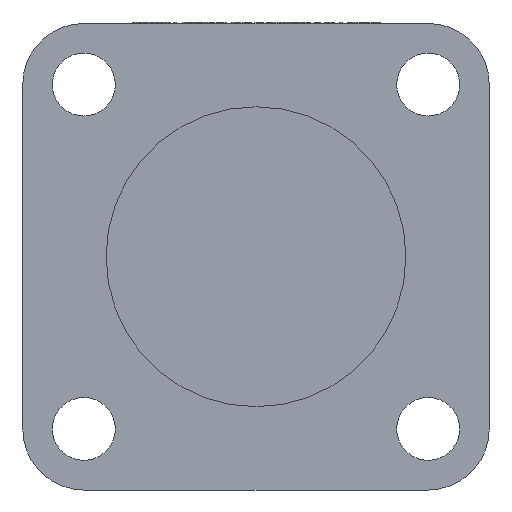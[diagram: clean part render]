
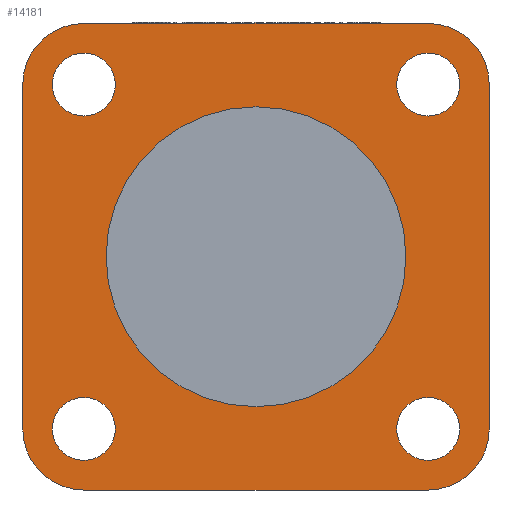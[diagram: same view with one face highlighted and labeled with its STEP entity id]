
A CAD part, left-side view. The second image highlights one B-rep face of the part: STEP entity #14181.
In plain terms, the highlighted planar face has unit normal (-1, 0, 0).
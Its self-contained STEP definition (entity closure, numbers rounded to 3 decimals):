
#12617=CARTESIAN_POINT('Line Origine',(-11.,0.,31.5)) ;
#12621=CARTESIAN_POINT('Vertex',(-11.,23.25,31.5)) ;
#12623=CARTESIAN_POINT('Vertex',(-11.,-23.25,31.5)) ;
#13372=CARTESIAN_POINT('Vertex',(-11.,-19.,23.25)) ;
#13375=CARTESIAN_POINT('Axis2P3D Location',(-11.,-23.25,23.25)) ;
#13379=CARTESIAN_POINT('Vertex',(-11.,-27.5,23.25)) ;
#13394=CARTESIAN_POINT('Axis2P3D Location',(-11.,-23.25,23.25)) ;
#13415=CARTESIAN_POINT('Vertex',(-11.,-19.,-23.25)) ;
#13418=CARTESIAN_POINT('Axis2P3D Location',(-11.,-23.25,-23.25)) ;
#13422=CARTESIAN_POINT('Vertex',(-11.,-27.5,-23.25)) ;
#13437=CARTESIAN_POINT('Axis2P3D Location',(-11.,-23.25,-23.25)) ;
#13458=CARTESIAN_POINT('Vertex',(-11.,19.,-23.25)) ;
#13461=CARTESIAN_POINT('Axis2P3D Location',(-11.,23.25,-23.25)) ;
#13465=CARTESIAN_POINT('Vertex',(-11.,27.5,-23.25)) ;
#13480=CARTESIAN_POINT('Axis2P3D Location',(-11.,23.25,-23.25)) ;
#13501=CARTESIAN_POINT('Vertex',(-11.,19.,23.25)) ;
#13504=CARTESIAN_POINT('Axis2P3D Location',(-11.,23.25,23.25)) ;
#13508=CARTESIAN_POINT('Vertex',(-11.,27.5,23.25)) ;
#13523=CARTESIAN_POINT('Axis2P3D Location',(-11.,23.25,23.25)) ;
#13732=CARTESIAN_POINT('Axis2P3D Location',(-11.,23.25,23.25)) ;
#13736=CARTESIAN_POINT('Vertex',(-11.,31.5,23.25)) ;
#13756=CARTESIAN_POINT('Axis2P3D Location',(-11.,-23.25,23.25)) ;
#13760=CARTESIAN_POINT('Vertex',(-11.,-31.5,23.25)) ;
#13787=CARTESIAN_POINT('Line Origine',(-11.,-31.5,0.)) ;
#13791=CARTESIAN_POINT('Vertex',(-11.,-31.5,-23.25)) ;
#13845=CARTESIAN_POINT('Axis2P3D Location',(-11.,-23.25,-23.25)) ;
#13849=CARTESIAN_POINT('Vertex',(-11.,-23.25,-31.5)) ;
#13869=CARTESIAN_POINT('Line Origine',(-11.,0.,-31.5)) ;
#13873=CARTESIAN_POINT('Vertex',(-11.,23.25,-31.5)) ;
#13897=CARTESIAN_POINT('Vertex',(-11.,-20.25,0.)) ;
#13902=CARTESIAN_POINT('Axis2P3D Location',(-11.,0.,0.)) ;
#13906=CARTESIAN_POINT('Vertex',(-11.,20.25,0.)) ;
#13928=CARTESIAN_POINT('Axis2P3D Location',(-11.,0.,0.)) ;
#14122=CARTESIAN_POINT('Axis2P3D Location',(-11.,23.25,-23.25)) ;
#14126=CARTESIAN_POINT('Vertex',(-11.,31.5,-23.25)) ;
#14141=CARTESIAN_POINT('Axis2P3D Location',(-11.,0.,0.)) ;
#14146=CARTESIAN_POINT('Line Origine',(-11.,31.5,0.)) ;
#12618=DIRECTION('Vector Direction',(0.,1.,0.)) ;
#13376=DIRECTION('Axis2P3D Direction',(1.,0.,0.)) ;
#13395=DIRECTION('Axis2P3D Direction',(1.,0.,0.)) ;
#13419=DIRECTION('Axis2P3D Direction',(1.,0.,0.)) ;
#13438=DIRECTION('Axis2P3D Direction',(1.,0.,0.)) ;
#13462=DIRECTION('Axis2P3D Direction',(1.,0.,0.)) ;
#13481=DIRECTION('Axis2P3D Direction',(1.,0.,0.)) ;
#13505=DIRECTION('Axis2P3D Direction',(1.,0.,0.)) ;
#13524=DIRECTION('Axis2P3D Direction',(1.,0.,0.)) ;
#13733=DIRECTION('Axis2P3D Direction',(1.,0.,0.)) ;
#13757=DIRECTION('Axis2P3D Direction',(1.,0.,0.)) ;
#13788=DIRECTION('Vector Direction',(0.,0.,-1.)) ;
#13846=DIRECTION('Axis2P3D Direction',(1.,0.,0.)) ;
#13870=DIRECTION('Vector Direction',(0.,-1.,0.)) ;
#13903=DIRECTION('Axis2P3D Direction',(-1.,-0.,0.)) ;
#13929=DIRECTION('Axis2P3D Direction',(-1.,-0.,0.)) ;
#14123=DIRECTION('Axis2P3D Direction',(1.,0.,0.)) ;
#14142=DIRECTION('Axis2P3D Direction',(1.,0.,0.)) ;
#14143=DIRECTION('Axis2P3D XDirection',(0.,1.,0.)) ;
#14147=DIRECTION('Vector Direction',(0.,0.,1.)) ;
#13377=AXIS2_PLACEMENT_3D('Circle Axis2P3D',#13375,#13376,$) ;
#13396=AXIS2_PLACEMENT_3D('Circle Axis2P3D',#13394,#13395,$) ;
#13420=AXIS2_PLACEMENT_3D('Circle Axis2P3D',#13418,#13419,$) ;
#13439=AXIS2_PLACEMENT_3D('Circle Axis2P3D',#13437,#13438,$) ;
#13463=AXIS2_PLACEMENT_3D('Circle Axis2P3D',#13461,#13462,$) ;
#13482=AXIS2_PLACEMENT_3D('Circle Axis2P3D',#13480,#13481,$) ;
#13506=AXIS2_PLACEMENT_3D('Circle Axis2P3D',#13504,#13505,$) ;
#13525=AXIS2_PLACEMENT_3D('Circle Axis2P3D',#13523,#13524,$) ;
#13734=AXIS2_PLACEMENT_3D('Circle Axis2P3D',#13732,#13733,$) ;
#13758=AXIS2_PLACEMENT_3D('Circle Axis2P3D',#13756,#13757,$) ;
#13847=AXIS2_PLACEMENT_3D('Circle Axis2P3D',#13845,#13846,$) ;
#13904=AXIS2_PLACEMENT_3D('Circle Axis2P3D',#13902,#13903,$) ;
#13930=AXIS2_PLACEMENT_3D('Circle Axis2P3D',#13928,#13929,$) ;
#14124=AXIS2_PLACEMENT_3D('Circle Axis2P3D',#14122,#14123,$) ;
#14144=AXIS2_PLACEMENT_3D('Plane Axis2P3D',#14141,#14142,#14143) ;
#14152=ORIENTED_EDGE('',*,*,#12625,.F.) ;
#14153=ORIENTED_EDGE('',*,*,#13738,.F.) ;
#14154=ORIENTED_EDGE('',*,*,#14150,.F.) ;
#14155=ORIENTED_EDGE('',*,*,#14128,.F.) ;
#14156=ORIENTED_EDGE('',*,*,#13875,.F.) ;
#14157=ORIENTED_EDGE('',*,*,#13851,.F.) ;
#14158=ORIENTED_EDGE('',*,*,#13793,.F.) ;
#14159=ORIENTED_EDGE('',*,*,#13762,.F.) ;
#14162=ORIENTED_EDGE('',*,*,#13932,.F.) ;
#14163=ORIENTED_EDGE('',*,*,#13908,.F.) ;
#14166=ORIENTED_EDGE('',*,*,#13398,.T.) ;
#14167=ORIENTED_EDGE('',*,*,#13381,.T.) ;
#14170=ORIENTED_EDGE('',*,*,#13441,.T.) ;
#14171=ORIENTED_EDGE('',*,*,#13424,.T.) ;
#14174=ORIENTED_EDGE('',*,*,#13484,.T.) ;
#14175=ORIENTED_EDGE('',*,*,#13467,.T.) ;
#14178=ORIENTED_EDGE('',*,*,#13527,.T.) ;
#14179=ORIENTED_EDGE('',*,*,#13510,.T.) ;
#14164=FACE_BOUND('',#14161,.T.) ;
#14168=FACE_BOUND('',#14165,.T.) ;
#14172=FACE_BOUND('',#14169,.T.) ;
#14176=FACE_BOUND('',#14173,.T.) ;
#14180=FACE_BOUND('',#14177,.T.) ;
#12619=VECTOR('Line Direction',#12618,1.) ;
#13789=VECTOR('Line Direction',#13788,1.) ;
#13871=VECTOR('Line Direction',#13870,1.) ;
#14148=VECTOR('Line Direction',#14147,1.) ;
#14181=ADVANCED_FACE('PartBody',(#14160,#14164,#14168,#14172,#14176,#14180),#14145,.F.) ;
#13378=CIRCLE('generated circle',#13377,4.25) ;
#13397=CIRCLE('generated circle',#13396,4.25) ;
#13421=CIRCLE('generated circle',#13420,4.25) ;
#13440=CIRCLE('generated circle',#13439,4.25) ;
#13464=CIRCLE('generated circle',#13463,4.25) ;
#13483=CIRCLE('generated circle',#13482,4.25) ;
#13507=CIRCLE('generated circle',#13506,4.25) ;
#13526=CIRCLE('generated circle',#13525,4.25) ;
#13735=CIRCLE('generated circle',#13734,8.25) ;
#13759=CIRCLE('generated circle',#13758,8.25) ;
#13848=CIRCLE('generated circle',#13847,8.25) ;
#13905=CIRCLE('generated circle',#13904,20.25) ;
#13931=CIRCLE('generated circle',#13930,20.25) ;
#14125=CIRCLE('generated circle',#14124,8.25) ;
#12625=EDGE_CURVE('',#12622,#12624,#12620,.F.) ;
#13381=EDGE_CURVE('',#13380,#13373,#13378,.T.) ;
#13398=EDGE_CURVE('',#13373,#13380,#13397,.T.) ;
#13424=EDGE_CURVE('',#13423,#13416,#13421,.T.) ;
#13441=EDGE_CURVE('',#13416,#13423,#13440,.T.) ;
#13467=EDGE_CURVE('',#13466,#13459,#13464,.T.) ;
#13484=EDGE_CURVE('',#13459,#13466,#13483,.T.) ;
#13510=EDGE_CURVE('',#13509,#13502,#13507,.T.) ;
#13527=EDGE_CURVE('',#13502,#13509,#13526,.T.) ;
#13738=EDGE_CURVE('',#13737,#12622,#13735,.T.) ;
#13762=EDGE_CURVE('',#12624,#13761,#13759,.T.) ;
#13793=EDGE_CURVE('',#13761,#13792,#13790,.T.) ;
#13851=EDGE_CURVE('',#13792,#13850,#13848,.T.) ;
#13875=EDGE_CURVE('',#13850,#13874,#13872,.F.) ;
#13908=EDGE_CURVE('',#13898,#13907,#13905,.T.) ;
#13932=EDGE_CURVE('',#13907,#13898,#13931,.T.) ;
#14128=EDGE_CURVE('',#13874,#14127,#14125,.T.) ;
#14150=EDGE_CURVE('',#14127,#13737,#14149,.T.) ;
#14151=EDGE_LOOP('',(#14152,#14153,#14154,#14155,#14156,#14157,#14158,#14159)) ;
#14161=EDGE_LOOP('',(#14162,#14163)) ;
#14165=EDGE_LOOP('',(#14166,#14167)) ;
#14169=EDGE_LOOP('',(#14170,#14171)) ;
#14173=EDGE_LOOP('',(#14174,#14175)) ;
#14177=EDGE_LOOP('',(#14178,#14179)) ;
#14160=FACE_OUTER_BOUND('',#14151,.T.) ;
#12620=LINE('Line',#12617,#12619) ;
#13790=LINE('Line',#13787,#13789) ;
#13872=LINE('Line',#13869,#13871) ;
#14149=LINE('Line',#14146,#14148) ;
#14145=PLANE('',#14144) ;
#12622=VERTEX_POINT('',#12621) ;
#12624=VERTEX_POINT('',#12623) ;
#13373=VERTEX_POINT('',#13372) ;
#13380=VERTEX_POINT('',#13379) ;
#13416=VERTEX_POINT('',#13415) ;
#13423=VERTEX_POINT('',#13422) ;
#13459=VERTEX_POINT('',#13458) ;
#13466=VERTEX_POINT('',#13465) ;
#13502=VERTEX_POINT('',#13501) ;
#13509=VERTEX_POINT('',#13508) ;
#13737=VERTEX_POINT('',#13736) ;
#13761=VERTEX_POINT('',#13760) ;
#13792=VERTEX_POINT('',#13791) ;
#13850=VERTEX_POINT('',#13849) ;
#13874=VERTEX_POINT('',#13873) ;
#13898=VERTEX_POINT('',#13897) ;
#13907=VERTEX_POINT('',#13906) ;
#14127=VERTEX_POINT('',#14126) ;
